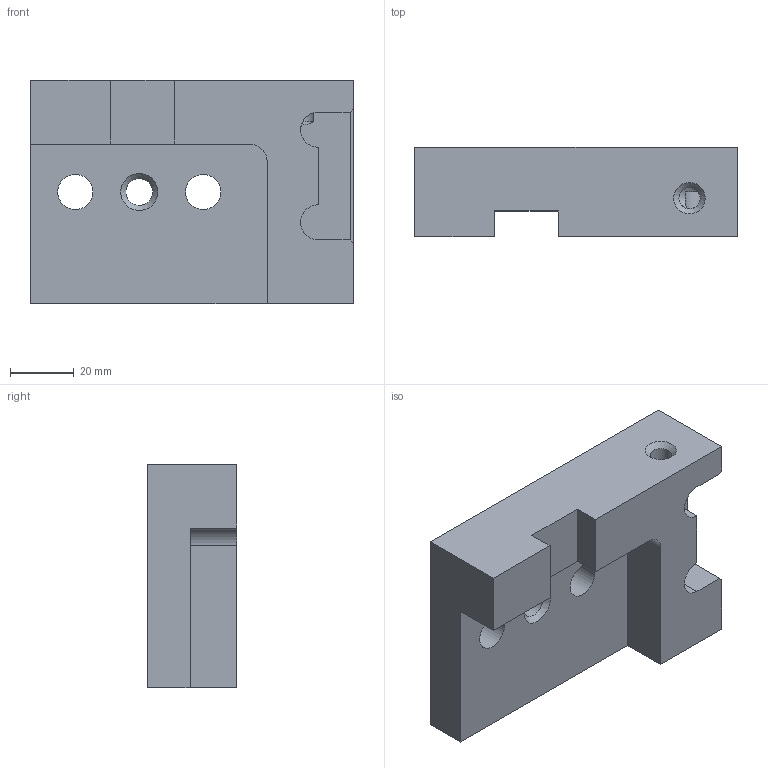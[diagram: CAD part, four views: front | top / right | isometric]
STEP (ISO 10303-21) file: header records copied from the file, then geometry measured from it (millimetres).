
FILE_DESCRIPTION(('STEP AP203'), '1');
FILE_NAME('ÒÏÏÔ1800.01.01.00.014 Êðåïëåíèå èçì1', '', ('UNSPECIFIED'), ('UNSPECIFIED'), 'C3D Converter', 'C3D Toolkit', '');
FILE_SCHEMA(('CONFIG_CONTROL_DESIGN'));
Length unit declared in the file: millimetre
Products named in the file (1): ТППФ1800.01.01.00.014-01
Bounding box: 101 x 28 x 70 mm (x, y, z)
Volume: 126748 mm3; surface area: 26530.7 mm2
Topology: 1 solids, 1 shells, 43 faces, 113 edges, 71 vertices
Faces by surface type: plane 20, cone 12, cylinder 11
Full cylindrical faces by diameter (mm): 6.647 x5, 8.376 x1, 11 x2
Entity records: 1810 total; most frequent: CARTESIAN_POINT 434, DIRECTION 206, ORIENTED_EDGE 180, EDGE_CURVE 90, AXIS2_PLACEMENT_3D 75, EDGE_LOOP 69, VERTEX_POINT 67, LINE 56
